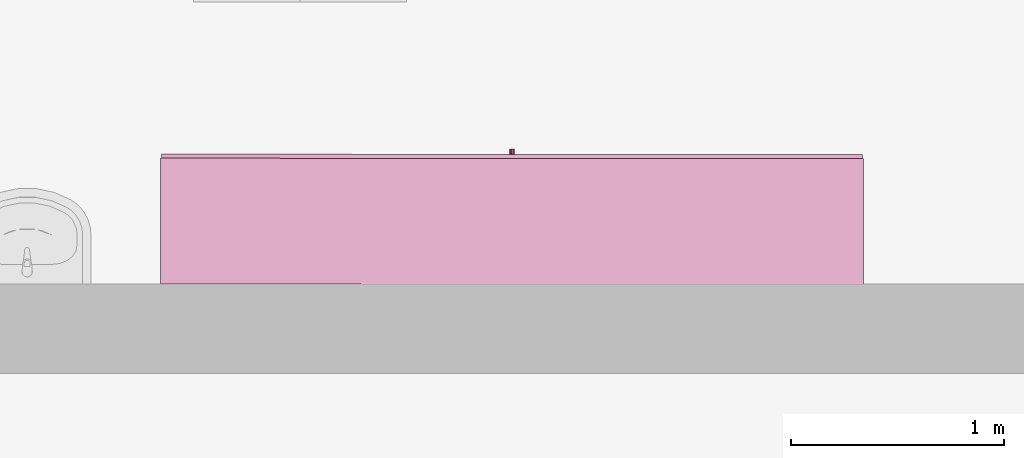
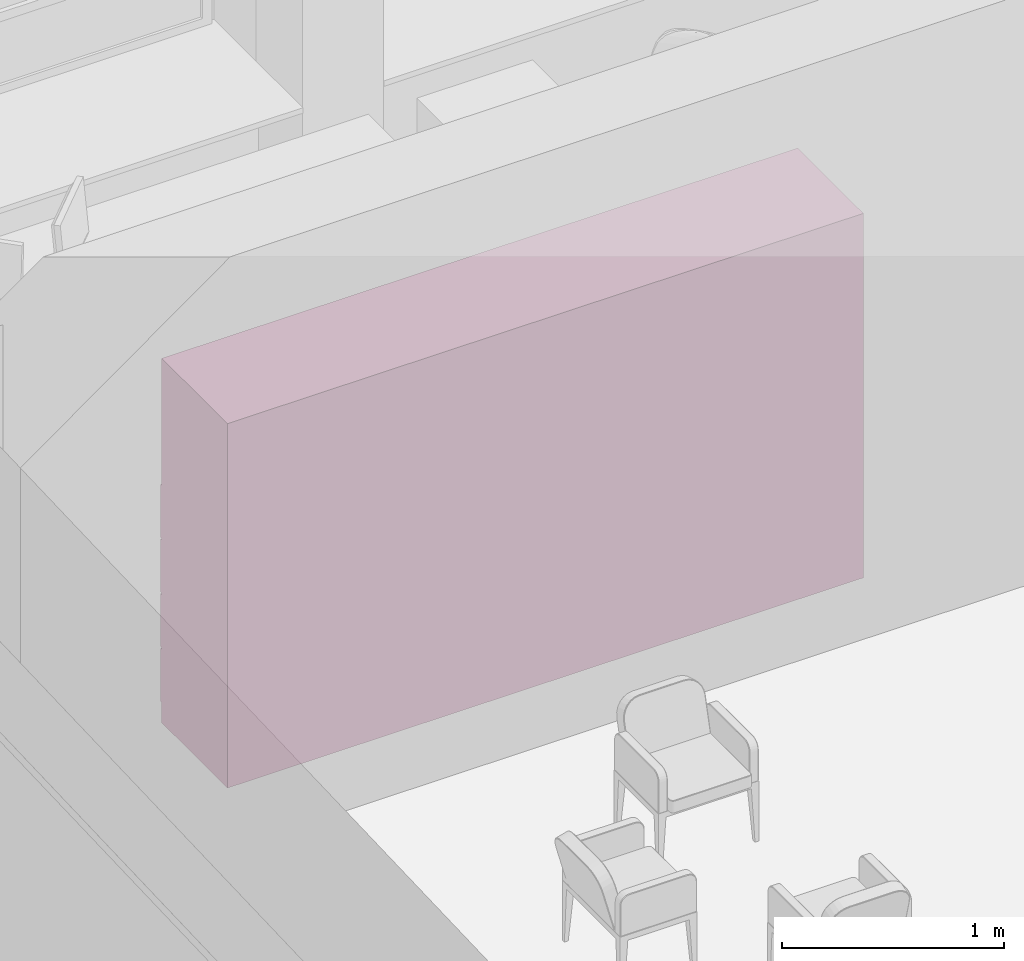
# One storey, part 176 of 194: 1 furnishing.
"""IFC2X3 building model written with IfcOpenShell, lengths in millimetres."""

from ifc_helpers import new_model, entity, si_unit, converted_unit, derived_unit, money_unit, direction, frame, origin_with_axes, place, context, subcontext, project, spatial, faceted_brep, type_object, element, save


model = new_model("IFC2X3")

# Units and contexts
model_context = context("Model", 3, precision=1e-05, world=origin_with_axes(), true_north=direction((0.0, 1.0)))
body_context = subcontext(model_context, "Body", "Model", "MODEL_VIEW")
ifc_project = project(units=[si_unit("LENGTHUNIT", "METRE", prefix="MILLI"), si_unit("AREAUNIT", "SQUARE_METRE"), si_unit("VOLUMEUNIT", "CUBIC_METRE"), converted_unit("PLANEANGLEUNIT", "DEGREE", entity("IfcPlaneAngleMeasure", 0.0174532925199), si_unit("PLANEANGLEUNIT", "RADIAN"), dimensions=[0, 0, 0, 0, 0, 0, 0]), si_unit("SOLIDANGLEUNIT", "STERADIAN"), money_unit("EUR"), converted_unit("TIMEUNIT", "Year", entity("IfcTimeMeasure", 31556926.0), si_unit("TIMEUNIT", "SECOND"), dimensions=[0, 0, 1, 0, 0, 0, 0]), si_unit("MASSUNIT", "GRAM", prefix="KILO"), si_unit("THERMODYNAMICTEMPERATUREUNIT", "DEGREE_CELSIUS"), si_unit("LUMINOUSINTENSITYUNIT", "LUMEN"), si_unit("ENERGYUNIT", "JOULE", prefix="MEGA"), derived_unit("THERMALCONDUCTANCEUNIT", [(si_unit("POWERUNIT", "WATT"), 1), (si_unit("LENGTHUNIT", "METRE"), -1), (si_unit("THERMODYNAMICTEMPERATUREUNIT", "KELVIN"), -1)]), derived_unit("SPECIFICHEATCAPACITYUNIT", [(si_unit("ENERGYUNIT", "JOULE"), 1), (si_unit("MASSUNIT", "GRAM", prefix="KILO"), -1), (si_unit("THERMODYNAMICTEMPERATUREUNIT", "KELVIN"), -1)]), derived_unit("MASSDENSITYUNIT", [(si_unit("MASSUNIT", "GRAM", prefix="KILO"), 1), (si_unit("VOLUMEUNIT", "CUBIC_METRE"), -1)])], contexts=[model_context])

# Site, building, storey
site_placement = place(None, origin_with_axes())
site = spatial("IfcSite", under=ifc_project, at=site_placement, Name="Site", CompositionType="ELEMENT")
building_placement = place(site_placement, origin_with_axes())
building = spatial("IfcBuilding", under=site, at=building_placement, Name="Building", CompositionType="ELEMENT")
storey_placement = place(building_placement, frame((0.0, 0.0, 3000.0), z_axis=(0.0, 0.0, 1.0), x_axis=(1.0, 0.0, 0.0)))
storey = spatial("IfcBuildingStorey", under=building, at=storey_placement, Name="2 KORRUS", CompositionType="ELEMENT", Elevation=3000.0)

# Furnishing
furnishing_element_type = type_object("IfcFurnishingElementType", Name="Model Element 98")
furnishing_placement = place(storey_placement, frame((4709.05232217, 68333.1041499, 0.0), z_axis=(0.0, 0.0, 1.0), x_axis=(-0.999999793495, 0.000642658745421, 0.0)))
element("IfcFurnishingElement", 1, at=furnishing_placement, inside=storey, type_object=furnishing_element_type, Name="FU - 001", context=body_context, shape_type="Brep", body=[
    faceted_brep([(3300.0, 19.0, 0.0), (0.0, 19.0, 0.0), (0.0, 610.408743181, 0.0), (3300.0, 610.408743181, 0.0), (3300.0, 19.0, 100.0), (0.0, 19.0, 100.0), (0.0, 610.408743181, 100.0), (3300.0, 610.408743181, 100.0)], [[[0, 1, 2, 3]], [[1, 0, 4, 5]], [[2, 1, 5, 6]], [[3, 2, 6, 7]], [[0, 3, 7, 4]], [[5, 4, 7, 6]]]),
    faceted_brep([(19.0, 610.408743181, 119.0), (19.0, 591.408743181, 119.0), (19.0, 591.408743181, 1981.0), (19.0, 610.408743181, 1981.0), (3281.0, 610.408743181, 119.0), (3281.0, 591.408743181, 119.0), (3281.0, 591.408743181, 1981.0), (3281.0, 610.408743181, 1981.0)], [[[0, 1, 2, 3]], [[0, 4, 5, 1]], [[1, 5, 6, 2]], [[3, 2, 6, 7]], [[4, 0, 3, 7]], [[5, 4, 7, 6]]]),
    faceted_brep([(3300.0, 19.0, 100.0), (3281.0, 19.0, 100.0), (3281.0, 610.408743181, 100.0), (3300.0, 610.408743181, 100.0), (3300.0, 19.0, 2000.0), (3281.0, 19.0, 2000.0), (3281.0, 610.408743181, 2000.0), (3300.0, 610.408743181, 2000.0)], [[[0, 1, 2, 3]], [[1, 0, 4, 5]], [[2, 1, 5, 6]], [[3, 2, 6, 7]], [[0, 3, 7, 4]], [[5, 4, 7, 6]]]),
    faceted_brep([(19.0, 19.0, 100.0), (0.0, 19.0, 100.0), (0.0, 610.408743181, 100.0), (19.0, 610.408743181, 100.0), (19.0, 19.0, 2000.0), (0.0, 19.0, 2000.0), (0.0, 610.408743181, 2000.0), (19.0, 610.408743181, 2000.0)], [[[0, 1, 2, 3]], [[1, 0, 4, 5]], [[2, 1, 5, 6]], [[3, 2, 6, 7]], [[0, 3, 7, 4]], [[5, 4, 7, 6]]]),
    faceted_brep([(3281.0, 19.0, 100.0), (19.0, 19.0, 100.0), (19.0, 610.408743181, 100.0), (3281.0, 610.408743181, 100.0), (3281.0, 19.0, 119.0), (19.0, 19.0, 119.0), (19.0, 610.408743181, 119.0), (3281.0, 610.408743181, 119.0)], [[[0, 1, 2, 3]], [[1, 0, 4, 5]], [[2, 1, 5, 6]], [[3, 2, 6, 7]], [[0, 3, 7, 4]], [[5, 4, 7, 6]]]),
    faceted_brep([(3281.0, 19.0, 1981.0), (19.0, 19.0, 1981.0), (19.0, 610.408743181, 1981.0), (3281.0, 610.408743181, 1981.0), (3281.0, 19.0, 2000.0), (19.0, 19.0, 2000.0), (19.0, 610.408743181, 2000.0), (3281.0, 610.408743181, 2000.0)], [[[0, 1, 2, 3]], [[1, 0, 4, 5]], [[2, 1, 5, 6]], [[3, 2, 6, 7]], [[0, 3, 7, 4]], [[5, 4, 7, 6]]]),
    faceted_brep([(5.0, 19.0, 105.0), (3295.0, 19.0, 105.0), (3295.0, 0.0, 105.0), (5.0, 0.0, 105.0), (5.0, 19.0, 395.0), (3295.0, 19.0, 395.0), (3295.0, 0.0, 395.0), (5.0, 0.0, 395.0)], [[[0, 1, 2, 3]], [[0, 4, 5, 1]], [[1, 5, 6, 2]], [[3, 2, 6, 7]], [[4, 0, 3, 7]], [[5, 4, 7, 6]]]),
    faceted_brep([(1660.39230485, 0.0, 244.0), (1656.0, 0.0, 239.607695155), (1650.0, 0.0, 238.0), (1644.0, 0.0, 239.607695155), (1639.60769515, 0.0, 244.0), (1638.0, 0.0, 250.0), (1639.60769515, 0.0, 256.0), (1644.0, 0.0, 260.392304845), (1650.0, 0.0, 262.0), (1656.0, 0.0, 260.392304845), (1660.39230485, 0.0, 256.0), (1662.0, 0.0, 250.0), (1660.39230485, -25.0, 244.0), (1656.0, -25.0, 239.607695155), (1650.0, -25.0, 238.0), (1644.0, -25.0, 239.607695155), (1639.60769515, -25.0, 244.0), (1638.0, -25.0, 250.0), (1639.60769515, -25.0, 256.0), (1644.0, -25.0, 260.392304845), (1650.0, -25.0, 262.0), (1656.0, -25.0, 260.392304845), (1660.39230485, -25.0, 256.0), (1662.0, -25.0, 250.0)], [[[0, 1, 2, 3, 4, 5, 6, 7, 8, 9, 10, 11]], [[1, 0, 12, 13]], [[2, 1, 13, 14]], [[3, 2, 14, 15]], [[4, 3, 15, 16]], [[5, 4, 16, 17]], [[6, 5, 17, 18]], [[7, 6, 18, 19]], [[8, 7, 19, 20]], [[9, 8, 20, 21]], [[10, 9, 21, 22]], [[11, 10, 22, 23]], [[0, 11, 23, 12]], [[12, 23, 22, 21, 20, 19, 18, 17, 16, 15, 14, 13]]]),
    faceted_brep([(5.0, 19.0, 405.0), (3295.0, 19.0, 405.0), (3295.0, 0.0, 405.0), (5.0, 0.0, 405.0), (5.0, 19.0, 695.0), (3295.0, 19.0, 695.0), (3295.0, 0.0, 695.0), (5.0, 0.0, 695.0)], [[[0, 1, 2, 3]], [[0, 4, 5, 1]], [[1, 5, 6, 2]], [[3, 2, 6, 7]], [[4, 0, 3, 7]], [[5, 4, 7, 6]]]),
    faceted_brep([(1660.39230485, 0.0, 544.0), (1656.0, 0.0, 539.607695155), (1650.0, 0.0, 538.0), (1644.0, 0.0, 539.607695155), (1639.60769515, 0.0, 544.0), (1638.0, 0.0, 550.0), (1639.60769515, 0.0, 556.0), (1644.0, 0.0, 560.392304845), (1650.0, 0.0, 562.0), (1656.0, 0.0, 560.392304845), (1660.39230485, 0.0, 556.0), (1662.0, 0.0, 550.0), (1660.39230485, -25.0, 544.0), (1656.0, -25.0, 539.607695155), (1650.0, -25.0, 538.0), (1644.0, -25.0, 539.607695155), (1639.60769515, -25.0, 544.0), (1638.0, -25.0, 550.0), (1639.60769515, -25.0, 556.0), (1644.0, -25.0, 560.392304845), (1650.0, -25.0, 562.0), (1656.0, -25.0, 560.392304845), (1660.39230485, -25.0, 556.0), (1662.0, -25.0, 550.0)], [[[0, 1, 2, 3, 4, 5, 6, 7, 8, 9, 10, 11]], [[1, 0, 12, 13]], [[2, 1, 13, 14]], [[3, 2, 14, 15]], [[4, 3, 15, 16]], [[5, 4, 16, 17]], [[6, 5, 17, 18]], [[7, 6, 18, 19]], [[8, 7, 19, 20]], [[9, 8, 20, 21]], [[10, 9, 21, 22]], [[11, 10, 22, 23]], [[0, 11, 23, 12]], [[12, 23, 22, 21, 20, 19, 18, 17, 16, 15, 14, 13]]]),
    faceted_brep([(5.0, 19.0, 705.0), (3295.0, 19.0, 705.0), (3295.0, 0.0, 705.0), (5.0, 0.0, 705.0), (5.0, 19.0, 995.0), (3295.0, 19.0, 995.0), (3295.0, 0.0, 995.0), (5.0, 0.0, 995.0)], [[[0, 1, 2, 3]], [[0, 4, 5, 1]], [[1, 5, 6, 2]], [[3, 2, 6, 7]], [[4, 0, 3, 7]], [[5, 4, 7, 6]]]),
    faceted_brep([(1660.39230485, 0.0, 844.0), (1656.0, 0.0, 839.607695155), (1650.0, 0.0, 838.0), (1644.0, 0.0, 839.607695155), (1639.60769515, 0.0, 844.0), (1638.0, 0.0, 850.0), (1639.60769515, 0.0, 856.0), (1644.0, 0.0, 860.392304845), (1650.0, 0.0, 862.0), (1656.0, 0.0, 860.392304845), (1660.39230485, 0.0, 856.0), (1662.0, 0.0, 850.0), (1660.39230485, -25.0, 844.0), (1656.0, -25.0, 839.607695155), (1650.0, -25.0, 838.0), (1644.0, -25.0, 839.607695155), (1639.60769515, -25.0, 844.0), (1638.0, -25.0, 850.0), (1639.60769515, -25.0, 856.0), (1644.0, -25.0, 860.392304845), (1650.0, -25.0, 862.0), (1656.0, -25.0, 860.392304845), (1660.39230485, -25.0, 856.0), (1662.0, -25.0, 850.0)], [[[0, 1, 2, 3, 4, 5, 6, 7, 8, 9, 10, 11]], [[1, 0, 12, 13]], [[2, 1, 13, 14]], [[3, 2, 14, 15]], [[4, 3, 15, 16]], [[5, 4, 16, 17]], [[6, 5, 17, 18]], [[7, 6, 18, 19]], [[8, 7, 19, 20]], [[9, 8, 20, 21]], [[10, 9, 21, 22]], [[11, 10, 22, 23]], [[0, 11, 23, 12]], [[12, 23, 22, 21, 20, 19, 18, 17, 16, 15, 14, 13]]]),
    faceted_brep([(5.0, 19.0, 1005.0), (3295.0, 19.0, 1005.0), (3295.0, 0.0, 1005.0), (5.0, 0.0, 1005.0), (5.0, 19.0, 1295.0), (3295.0, 19.0, 1295.0), (3295.0, 0.0, 1295.0), (5.0, 0.0, 1295.0)], [[[0, 1, 2, 3]], [[0, 4, 5, 1]], [[1, 5, 6, 2]], [[3, 2, 6, 7]], [[4, 0, 3, 7]], [[5, 4, 7, 6]]]),
    faceted_brep([(1660.39230485, 0.0, 1144.0), (1656.0, 0.0, 1139.60769515), (1650.0, 0.0, 1138.0), (1644.0, 0.0, 1139.60769515), (1639.60769515, 0.0, 1144.0), (1638.0, 0.0, 1150.0), (1639.60769515, 0.0, 1156.0), (1644.0, 0.0, 1160.39230485), (1650.0, 0.0, 1162.0), (1656.0, 0.0, 1160.39230485), (1660.39230485, 0.0, 1156.0), (1662.0, 0.0, 1150.0), (1660.39230485, -25.0, 1144.0), (1656.0, -25.0, 1139.60769515), (1650.0, -25.0, 1138.0), (1644.0, -25.0, 1139.60769515), (1639.60769515, -25.0, 1144.0), (1638.0, -25.0, 1150.0), (1639.60769515, -25.0, 1156.0), (1644.0, -25.0, 1160.39230485), (1650.0, -25.0, 1162.0), (1656.0, -25.0, 1160.39230485), (1660.39230485, -25.0, 1156.0), (1662.0, -25.0, 1150.0)], [[[0, 1, 2, 3, 4, 5, 6, 7, 8, 9, 10, 11]], [[1, 0, 12, 13]], [[2, 1, 13, 14]], [[3, 2, 14, 15]], [[4, 3, 15, 16]], [[5, 4, 16, 17]], [[6, 5, 17, 18]], [[7, 6, 18, 19]], [[8, 7, 19, 20]], [[9, 8, 20, 21]], [[10, 9, 21, 22]], [[11, 10, 22, 23]], [[0, 11, 23, 12]], [[12, 23, 22, 21, 20, 19, 18, 17, 16, 15, 14, 13]]]),
    faceted_brep([(19.0, 19.0, 390.5), (3281.0, 19.0, 390.5), (3281.0, 19.0, 409.5), (19.0, 19.0, 409.5), (19.0, 591.408743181, 390.5), (3281.0, 591.408743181, 390.5), (3281.0, 591.408743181, 409.5), (19.0, 591.408743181, 409.5)], [[[0, 1, 2, 3]], [[0, 4, 5, 1]], [[1, 5, 6, 2]], [[3, 2, 6, 7]], [[4, 0, 3, 7]], [[5, 4, 7, 6]]]),
    faceted_brep([(19.0, 19.0, 690.5), (3281.0, 19.0, 690.5), (3281.0, 19.0, 709.5), (19.0, 19.0, 709.5), (19.0, 591.408743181, 690.5), (3281.0, 591.408743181, 690.5), (3281.0, 591.408743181, 709.5), (19.0, 591.408743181, 709.5)], [[[0, 1, 2, 3]], [[0, 4, 5, 1]], [[1, 5, 6, 2]], [[3, 2, 6, 7]], [[4, 0, 3, 7]], [[5, 4, 7, 6]]]),
    faceted_brep([(19.0, 19.0, 990.5), (3281.0, 19.0, 990.5), (3281.0, 19.0, 1009.5), (19.0, 19.0, 1009.5), (19.0, 591.408743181, 990.5), (3281.0, 591.408743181, 990.5), (3281.0, 591.408743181, 1009.5), (19.0, 591.408743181, 1009.5)], [[[0, 1, 2, 3]], [[0, 4, 5, 1]], [[1, 5, 6, 2]], [[3, 2, 6, 7]], [[4, 0, 3, 7]], [[5, 4, 7, 6]]]),
    faceted_brep([(19.0, 19.0, 1290.5), (3281.0, 19.0, 1290.5), (3281.0, 19.0, 1309.5), (19.0, 19.0, 1309.5), (19.0, 591.408743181, 1290.5), (3281.0, 591.408743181, 1290.5), (3281.0, 591.408743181, 1309.5), (19.0, 591.408743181, 1309.5)], [[[0, 1, 2, 3]], [[0, 4, 5, 1]], [[1, 5, 6, 2]], [[3, 2, 6, 7]], [[4, 0, 3, 7]], [[5, 4, 7, 6]]]),
    faceted_brep([(3281.0, 19.0, 1463.125), (19.0, 19.0, 1463.125), (19.0, 591.408743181, 1463.125), (3281.0, 591.408743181, 1463.125), (3281.0, 19.0, 1482.125), (19.0, 19.0, 1482.125), (19.0, 591.408743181, 1482.125), (3281.0, 591.408743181, 1482.125)], [[[0, 1, 2, 3]], [[1, 0, 4, 5]], [[2, 1, 5, 6]], [[3, 2, 6, 7]], [[0, 3, 7, 4]], [[5, 4, 7, 6]]]),
    faceted_brep([(3281.0, 19.0, 1635.75), (19.0, 19.0, 1635.75), (19.0, 591.408743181, 1635.75), (3281.0, 591.408743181, 1635.75), (3281.0, 19.0, 1654.75), (19.0, 19.0, 1654.75), (19.0, 591.408743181, 1654.75), (3281.0, 591.408743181, 1654.75)], [[[0, 1, 2, 3]], [[1, 0, 4, 5]], [[2, 1, 5, 6]], [[3, 2, 6, 7]], [[0, 3, 7, 4]], [[5, 4, 7, 6]]]),
    faceted_brep([(3281.0, 19.0, 1808.375), (19.0, 19.0, 1808.375), (19.0, 591.408743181, 1808.375), (3281.0, 591.408743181, 1808.375), (3281.0, 19.0, 1827.375), (19.0, 19.0, 1827.375), (19.0, 591.408743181, 1827.375), (3281.0, 591.408743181, 1827.375)], [[[0, 1, 2, 3]], [[1, 0, 4, 5]], [[2, 1, 5, 6]], [[3, 2, 6, 7]], [[0, 3, 7, 4]], [[5, 4, 7, 6]]]),
])

save(model, "model.ifc")
